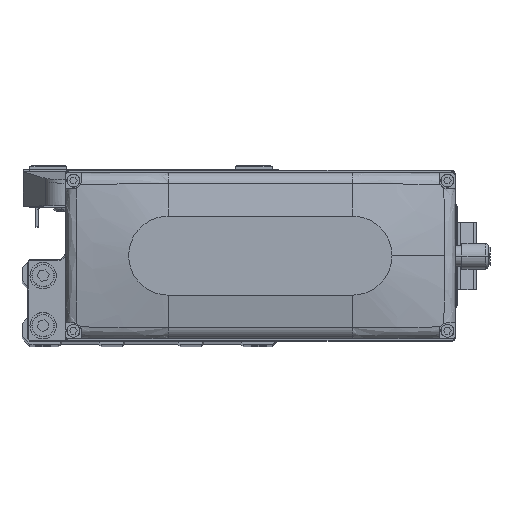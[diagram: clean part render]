
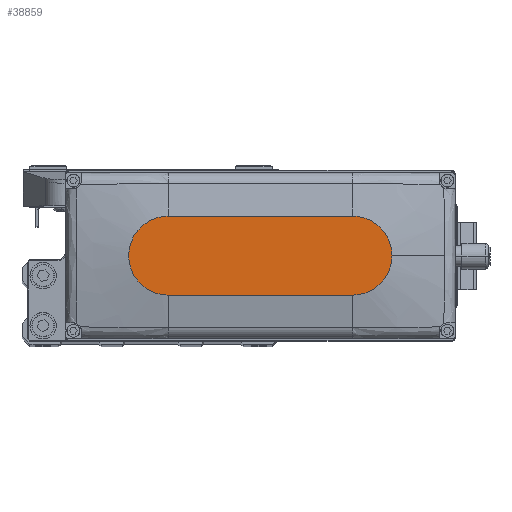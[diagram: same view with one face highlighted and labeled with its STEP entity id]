
A CAD part, top view. The second image highlights one B-rep face of the part: STEP entity #38859.
In plain terms, the highlighted planar face has unit normal (0, 0, 1).
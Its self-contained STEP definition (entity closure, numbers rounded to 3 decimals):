
#619 = ORIENTED_EDGE ( 'NONE', *, *, #12024, .T. ) ;
#1424 = CARTESIAN_POINT ( 'NONE',  ( -35., 15., 35. ) ) ;
#2498 = FACE_OUTER_BOUND ( 'NONE', #2912, .T. ) ;
#2524 = AXIS2_PLACEMENT_3D ( 'NONE', #30378, #44199, #13076 ) ;
#2912 = EDGE_LOOP ( 'NONE', ( #20629, #619, #19186, #30696, #3394 ) ) ;
#3394 = ORIENTED_EDGE ( 'NONE', *, *, #28200, .T. ) ;
#5123 = CIRCLE ( 'NONE', #30575, 15. ) ;
#9505 = DIRECTION ( 'NONE',  ( 0., 0., 1. ) ) ;
#10983 = CARTESIAN_POINT ( 'NONE',  ( 35., -15., 35. ) ) ;
#12024 = EDGE_CURVE ( 'NONE', #43310, #34157, #40722, .T. ) ;
#12380 = LINE ( 'NONE', #26263, #12696 ) ;
#12696 = VECTOR ( 'NONE', #40102, 1000. ) ;
#12965 = DIRECTION ( 'NONE',  ( 1., 0., 0. ) ) ;
#13076 = DIRECTION ( 'NONE',  ( 1., 0., 0. ) ) ;
#15289 = DIRECTION ( 'NONE',  ( -1., 0., 0. ) ) ;
#16366 = PLANE ( 'NONE',  #36063 ) ;
#18036 = EDGE_CURVE ( 'NONE', #36003, #18329, #5123, .T. ) ;
#18329 = VERTEX_POINT ( 'NONE', #32903 ) ;
#19083 = DIRECTION ( 'NONE',  ( 0., 0., 1. ) ) ;
#19186 = ORIENTED_EDGE ( 'NONE', *, *, #42630, .T. ) ;
#20629 = ORIENTED_EDGE ( 'NONE', *, *, #29437, .T. ) ;
#21140 = AXIS2_PLACEMENT_3D ( 'NONE', #39763, #19083, #32957 ) ;
#23395 = DIRECTION ( 'NONE',  ( 1., 0., 0. ) ) ;
#26263 = CARTESIAN_POINT ( 'NONE',  ( -35., -15., 35. ) ) ;
#28100 = CARTESIAN_POINT ( 'NONE',  ( -35., -15., 35. ) ) ;
#28200 = EDGE_CURVE ( 'NONE', #18329, #31178, #41716, .T. ) ;
#29372 = VECTOR ( 'NONE', #15289, 1000. ) ;
#29437 = EDGE_CURVE ( 'NONE', #31178, #43310, #32586, .T. ) ;
#30259 = CARTESIAN_POINT ( 'NONE',  ( 0., 0., 35. ) ) ;
#30378 = CARTESIAN_POINT ( 'NONE',  ( 35., 0., 35. ) ) ;
#30575 = AXIS2_PLACEMENT_3D ( 'NONE', #40655, #9505, #23395 ) ;
#30696 = ORIENTED_EDGE ( 'NONE', *, *, #18036, .T. ) ;
#31178 = VERTEX_POINT ( 'NONE', #36162 ) ;
#32586 = LINE ( 'NONE', #1424, #29372 ) ;
#32903 = CARTESIAN_POINT ( 'NONE',  ( 50., 0., 35. ) ) ;
#32957 = DIRECTION ( 'NONE',  ( 1., 0., 0. ) ) ;
#34157 = VERTEX_POINT ( 'NONE', #28100 ) ;
#36003 = VERTEX_POINT ( 'NONE', #10983 ) ;
#36063 = AXIS2_PLACEMENT_3D ( 'NONE', #30259, #44084, #12965 ) ;
#36162 = CARTESIAN_POINT ( 'NONE',  ( 35., 15., 35. ) ) ;
#38648 = CARTESIAN_POINT ( 'NONE',  ( -35., 15., 35. ) ) ;
#38859 = ADVANCED_FACE ( 'NONE', ( #2498 ), #16366, .T. ) ;
#39763 = CARTESIAN_POINT ( 'NONE',  ( -35., 0., 35. ) ) ;
#40102 = DIRECTION ( 'NONE',  ( 1., 0., 0. ) ) ;
#40655 = CARTESIAN_POINT ( 'NONE',  ( 35., 0., 35. ) ) ;
#40722 = CIRCLE ( 'NONE', #21140, 15. ) ;
#41716 = CIRCLE ( 'NONE', #2524, 15. ) ;
#42630 = EDGE_CURVE ( 'NONE', #34157, #36003, #12380, .T. ) ;
#43310 = VERTEX_POINT ( 'NONE', #38648 ) ;
#44084 = DIRECTION ( 'NONE',  ( 0., 0., 1. ) ) ;
#44199 = DIRECTION ( 'NONE',  ( 0., 0., 1. ) ) ;
